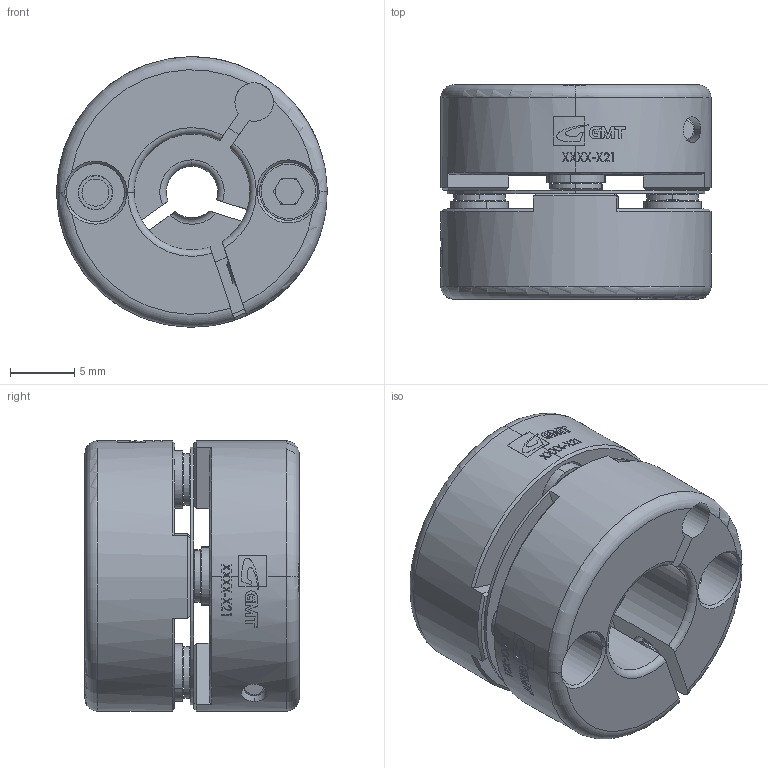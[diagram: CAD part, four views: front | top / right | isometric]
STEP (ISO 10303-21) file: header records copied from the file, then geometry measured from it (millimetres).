
FILE_DESCRIPTION (( 'STEP AP203' ), '1' );
FILE_NAME ('FACC-S21.STEP', '2008-04-04T03:48:51', ( '陳志豪' ), ( '高明鐵企業股份有限公司' ), 'SwSTEP 2.0', 'SolidWorks 2007', '' );
FILE_SCHEMA (( 'CONFIG_CONTROL_DESIGN' ));
Length unit declared in the file: millimetre
Products named in the file (1): FACC-S21
Bounding box: 21 x 16.65 x 21 mm (x, y, z)
Surface area: 3807.5 mm2 (no closed solid volume)
Topology: 0 solids, 19 shells, 360 faces, 1479 edges, 1049 vertices
Faces by surface type: bspline 111, cylinder 92, plane 92, cone 44, torus 21
Entity records: 17562 total; most frequent: CARTESIAN_POINT 6845, ORIENTED_EDGE 2251, DIRECTION 1757, EDGE_CURVE 1479, VERTEX_POINT 1049, AXIS2_PLACEMENT_3D 702, B_SPLINE_CURVE_WITH_KNOTS 674, CIRCLE 452
